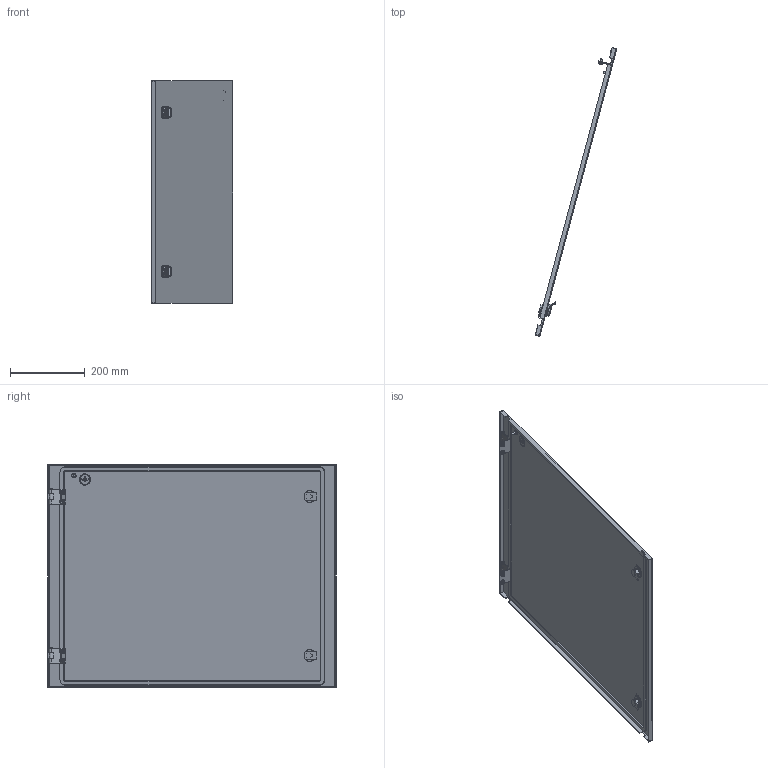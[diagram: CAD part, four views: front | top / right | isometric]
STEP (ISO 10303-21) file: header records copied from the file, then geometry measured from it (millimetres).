
FILE_DESCRIPTION (( 'STEP AP214' ), '1' );
FILE_NAME ('FO-00-ESD-060-080 Äâåðü ñåêöèîííàÿ âíåøíÿÿ 600õ800 ìì.STEP', '2025-08-20T06:29:00', ( '' ), ( '' ), 'SwSTEP 2.0', 'SolidWorks 2023', '' );
FILE_SCHEMA (( 'AUTOMOTIVE_DESIGN' ));
Length unit declared in the file: millimetre
Products named in the file (4): FO-00-ESD-060-080 Дверь секционная внешняя 600х800 мм; FO-00-ESD-060-080 Дверь секционная внешняя 600х800 мм.STEP; Дверь секционная внешняя 600х800 мм.STEP; Петля_8.STEP
Assembly tree (4 placements, depth 3):
  FO-00-ESD-060-080 Дверь секционная внешняя 600х800 мм
    FO-00-ESD-060-080 Дверь секционная внешняя 600х800 мм.STEP
      Дверь секционная внешняя 600х800 мм.STEP
      Петля_8.STEP  x2
Bounding box: 217.64 x 771.19 x 596 mm (x, y, z)
Volume: 1149315.2 mm3; surface area: 1052207.6 mm2
Topology: 3 solids, 12 shells, 707 faces, 1809 edges, 1168 vertices
Faces by surface type: plane 343, cylinder 268, torus 34, cone 32, bspline 30
Entity records: 20694 total; most frequent: CARTESIAN_POINT 5778, ORIENTED_EDGE 3108, DIRECTION 3078, EDGE_CURVE 1554, AXIS2_PLACEMENT_3D 1056, VERTEX_POINT 1006, LINE 966, VECTOR 966
